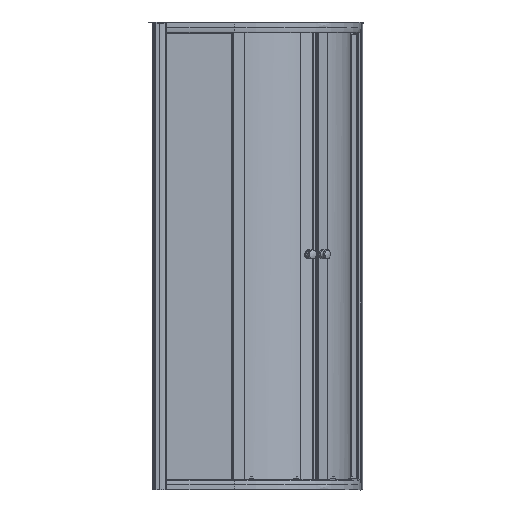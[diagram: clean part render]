
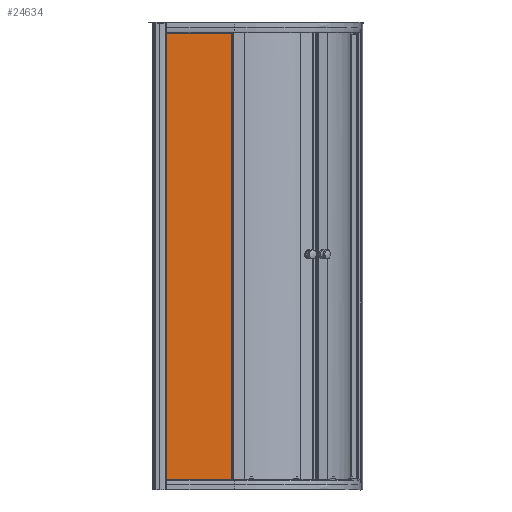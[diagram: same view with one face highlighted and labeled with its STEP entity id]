
A CAD part, front view. The second image highlights one B-rep face of the part: STEP entity #24634.
In plain terms, the highlighted planar face has unit normal (0, -1, 0).
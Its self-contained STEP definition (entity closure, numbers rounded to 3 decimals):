
#150=(
BOUNDED_CURVE()
B_SPLINE_CURVE(2,(#42019,#42020,#42021),.UNSPECIFIED.,.F.,.F.)
B_SPLINE_CURVE_WITH_KNOTS((3,3),(95.,190.),
 .UNSPECIFIED.)
CURVE()
GEOMETRIC_REPRESENTATION_ITEM()
RATIONAL_B_SPLINE_CURVE((1.,1.,1.))
REPRESENTATION_ITEM($)
);
#1147=LINE($,#41335,#2920);
#1368=LINE($,#41995,#3141);
#1369=LINE($,#41997,#3142);
#1370=LINE($,#41999,#3143);
#1371=LINE($,#42001,#3144);
#1372=LINE($,#42003,#3145);
#1373=LINE($,#42005,#3146);
#1374=LINE($,#42007,#3147);
#1375=LINE($,#42009,#3148);
#1376=LINE($,#42011,#3149);
#1377=LINE($,#42013,#3150);
#1378=LINE($,#42015,#3151);
#1379=LINE($,#42017,#3152);
#1380=LINE($,#42023,#3153);
#1381=LINE($,#42025,#3154);
#1382=LINE($,#42027,#3155);
#1383=LINE($,#42029,#3156);
#1384=LINE($,#42031,#3157);
#1385=LINE($,#42032,#3158);
#1386=LINE($,#42035,#3159);
#1387=LINE($,#42037,#3160);
#1388=LINE($,#42039,#3161);
#1389=LINE($,#42040,#3162);
#2920=VECTOR($,#31073,283.9);
#3141=VECTOR($,#31694,7.4);
#3142=VECTOR($,#31695,2.11);
#3143=VECTOR($,#31696,1927.);
#3144=VECTOR($,#31697,2.11);
#3145=VECTOR($,#31698,7.6);
#3146=VECTOR($,#31699,283.9);
#3147=VECTOR($,#31700,1.327);
#3148=VECTOR($,#31701,283.9);
#3149=VECTOR($,#31702,0.446);
#3150=VECTOR($,#31703,283.9);
#3151=VECTOR($,#31704,4.271);
#3152=VECTOR($,#31705,950.);
#3153=VECTOR($,#31706,0.);
#3154=VECTOR($,#31707,4.182);
#3155=VECTOR($,#31708,283.9);
#3156=VECTOR($,#31709,0.449);
#3157=VECTOR($,#31710,283.9);
#3158=VECTOR($,#31711,1.325);
#3159=VECTOR($,#31712,1900.);
#3160=VECTOR($,#31713,2.486);
#3161=VECTOR($,#31714,1900.);
#3162=VECTOR($,#31715,2.628);
#4465=FACE_BOUND($,#7430,.T.);
#5790=FACE_OUTER_BOUND($,#7429,.T.);
#7429=EDGE_LOOP($,(#18364,#18365,#18366,#18367,#18368,#18369,#18370,#18371,
#18372,#18373,#18374,#18375,#18376,#18377,#18378,#18379,#18380,#18381,#18382,
#18383));
#7430=EDGE_LOOP($,(#18384,#18385,#18386,#18387));
#10462=VERTEX_POINT($,#41333);
#10463=VERTEX_POINT($,#41334);
#10667=VERTEX_POINT($,#41994);
#10668=VERTEX_POINT($,#41996);
#10669=VERTEX_POINT($,#41998);
#10670=VERTEX_POINT($,#42000);
#10671=VERTEX_POINT($,#42002);
#10672=VERTEX_POINT($,#42004);
#10673=VERTEX_POINT($,#42006);
#10674=VERTEX_POINT($,#42008);
#10675=VERTEX_POINT($,#42010);
#10676=VERTEX_POINT($,#42012);
#10677=VERTEX_POINT($,#42014);
#10678=VERTEX_POINT($,#42016);
#10679=VERTEX_POINT($,#42018);
#10680=VERTEX_POINT($,#42022);
#10681=VERTEX_POINT($,#42024);
#10682=VERTEX_POINT($,#42026);
#10683=VERTEX_POINT($,#42028);
#10684=VERTEX_POINT($,#42030);
#10685=VERTEX_POINT($,#42033);
#10686=VERTEX_POINT($,#42034);
#10687=VERTEX_POINT($,#42036);
#10688=VERTEX_POINT($,#42038);
#13090=EDGE_CURVE($,#10462,#10463,#1147,.T.);
#13411=EDGE_CURVE($,#10463,#10667,#1368,.T.);
#13412=EDGE_CURVE($,#10667,#10668,#1369,.T.);
#13413=EDGE_CURVE($,#10668,#10669,#1370,.T.);
#13414=EDGE_CURVE($,#10670,#10669,#1371,.T.);
#13415=EDGE_CURVE($,#10670,#10671,#1372,.T.);
#13416=EDGE_CURVE($,#10671,#10672,#1373,.T.);
#13417=EDGE_CURVE($,#10673,#10672,#1374,.T.);
#13418=EDGE_CURVE($,#10673,#10674,#1375,.T.);
#13419=EDGE_CURVE($,#10674,#10675,#1376,.T.);
#13420=EDGE_CURVE($,#10675,#10676,#1377,.T.);
#13421=EDGE_CURVE($,#10677,#10676,#1378,.T.);
#13422=EDGE_CURVE($,#10678,#10677,#1379,.T.);
#13423=EDGE_CURVE($,#10678,#10679,#150,.T.);
#13424=EDGE_CURVE($,#10679,#10680,#1380,.T.);
#13425=EDGE_CURVE($,#10681,#10680,#1381,.T.);
#13426=EDGE_CURVE($,#10681,#10682,#1382,.T.);
#13427=EDGE_CURVE($,#10682,#10683,#1383,.T.);
#13428=EDGE_CURVE($,#10683,#10684,#1384,.T.);
#13429=EDGE_CURVE($,#10462,#10684,#1385,.T.);
#13430=EDGE_CURVE($,#10685,#10686,#1386,.T.);
#13431=EDGE_CURVE($,#10686,#10687,#1387,.T.);
#13432=EDGE_CURVE($,#10687,#10688,#1388,.T.);
#13433=EDGE_CURVE($,#10688,#10685,#1389,.T.);
#18364=ORIENTED_EDGE($,*,*,#13090,.T.);
#18365=ORIENTED_EDGE($,*,*,#13411,.T.);
#18366=ORIENTED_EDGE($,*,*,#13412,.T.);
#18367=ORIENTED_EDGE($,*,*,#13413,.T.);
#18368=ORIENTED_EDGE($,*,*,#13414,.F.);
#18369=ORIENTED_EDGE($,*,*,#13415,.T.);
#18370=ORIENTED_EDGE($,*,*,#13416,.T.);
#18371=ORIENTED_EDGE($,*,*,#13417,.F.);
#18372=ORIENTED_EDGE($,*,*,#13418,.T.);
#18373=ORIENTED_EDGE($,*,*,#13419,.T.);
#18374=ORIENTED_EDGE($,*,*,#13420,.T.);
#18375=ORIENTED_EDGE($,*,*,#13421,.F.);
#18376=ORIENTED_EDGE($,*,*,#13422,.F.);
#18377=ORIENTED_EDGE($,*,*,#13423,.T.);
#18378=ORIENTED_EDGE($,*,*,#13424,.T.);
#18379=ORIENTED_EDGE($,*,*,#13425,.F.);
#18380=ORIENTED_EDGE($,*,*,#13426,.T.);
#18381=ORIENTED_EDGE($,*,*,#13427,.T.);
#18382=ORIENTED_EDGE($,*,*,#13428,.T.);
#18383=ORIENTED_EDGE($,*,*,#13429,.F.);
#18384=ORIENTED_EDGE($,*,*,#13430,.T.);
#18385=ORIENTED_EDGE($,*,*,#13431,.T.);
#18386=ORIENTED_EDGE($,*,*,#13432,.T.);
#18387=ORIENTED_EDGE($,*,*,#13433,.T.);
#22078=PLANE($,#26779);
#24634=ADVANCED_FACE($,(#5790,#4465),#22078,.T.);
#26779=AXIS2_PLACEMENT_3D($,#41993,#31692,#31693);
#31073=DIRECTION($,(-1.,0.,0.));
#31692=DIRECTION('center_axis',(0.,-1.,
0.));
#31693=DIRECTION('ref_axis',(-1.,0.,0.));
#31694=DIRECTION($,(0.,0.,1.));
#31695=DIRECTION($,(-1.,0.,0.));
#31696=DIRECTION($,(0.,0.,-1.));
#31697=DIRECTION($,(-1.,0.,0.));
#31698=DIRECTION($,(0.,0.,1.));
#31699=DIRECTION($,(1.,0.,0.));
#31700=DIRECTION($,(0.,0.,-1.));
#31701=DIRECTION($,(-1.,0.,0.));
#31702=DIRECTION($,(0.,0.,1.));
#31703=DIRECTION($,(1.,0.,0.));
#31704=DIRECTION($,(0.,0.,-1.));
#31705=DIRECTION($,(0.,0.,-1.));
#31706=DIRECTION($,(1.,0.,0.));
#31707=DIRECTION($,(0.,0.,-1.));
#31708=DIRECTION($,(-1.,0.,0.));
#31709=DIRECTION($,(0.,0.,1.));
#31710=DIRECTION($,(1.,0.,0.));
#31711=DIRECTION($,(0.,0.,-1.));
#31712=DIRECTION($,(0.,0.,-1.));
#31713=DIRECTION($,(-1.,0.,0.));
#31714=DIRECTION($,(0.,0.,1.));
#31715=DIRECTION($,(1.,0.,0.));
#41333=CARTESIAN_POINT('',(229.314,-172.061,1966.));
#41334=CARTESIAN_POINT('',(-54.586,-172.061,1966.));
#41335=CARTESIAN_POINT($,(87.364,-172.061,1966.));
#41993=CARTESIAN_POINT('Origin',(229.314,-172.061,1973.4));
#41994=CARTESIAN_POINT('',(-54.586,-172.061,1973.4));
#41995=CARTESIAN_POINT($,(-54.586,-172.061,1980.94));
#41996=CARTESIAN_POINT('',(-56.696,-172.061,1973.4));
#41997=CARTESIAN_POINT($,(229.314,-172.061,1973.4));
#41998=CARTESIAN_POINT('',(-56.696,-172.059,46.4));
#41999=CARTESIAN_POINT($,(-56.696,-172.06,991.7));
#42000=CARTESIAN_POINT('',(-54.586,-172.059,46.4));
#42001=CARTESIAN_POINT($,(229.314,-172.059,46.4));
#42002=CARTESIAN_POINT('',(-54.586,-172.059,54.));
#42003=CARTESIAN_POINT($,(-54.586,-172.06,1012.975));
#42004=CARTESIAN_POINT('',(229.314,-172.059,54.));
#42005=CARTESIAN_POINT($,(497.154,-172.059,54.));
#42006=CARTESIAN_POINT('',(229.314,-172.059,55.327));
#42007=CARTESIAN_POINT($,(229.314,-172.061,1973.4));
#42008=CARTESIAN_POINT('',(-54.586,-172.059,55.327));
#42009=CARTESIAN_POINT($,(-54.586,-172.059,55.327));
#42010=CARTESIAN_POINT('',(-54.586,-172.059,55.773));
#42011=CARTESIAN_POINT($,(-54.586,-172.06,1014.475));
#42012=CARTESIAN_POINT('',(229.314,-172.059,55.773));
#42013=CARTESIAN_POINT($,(-54.586,-172.059,55.773));
#42014=CARTESIAN_POINT('',(229.314,-172.059,60.044));
#42015=CARTESIAN_POINT($,(229.314,-172.061,1973.4));
#42016=CARTESIAN_POINT('',(229.314,-172.06,1010.044));
#42017=CARTESIAN_POINT($,(229.314,-172.061,1973.4));
#42018=CARTESIAN_POINT('',(229.314,-172.061,1960.044));
#42019=CARTESIAN_POINT('Ctrl Pts',(229.314,-172.06,1010.044));
#42020=CARTESIAN_POINT('Ctrl Pts',(229.314,-172.061,1485.176));
#42021=CARTESIAN_POINT('Ctrl Pts',(229.314,-172.061,1960.044));
#42022=CARTESIAN_POINT('',(229.314,-172.061,1960.044));
#42023=CARTESIAN_POINT($,(229.714,-172.061,1960.044));
#42024=CARTESIAN_POINT('',(229.314,-172.061,1964.226));
#42025=CARTESIAN_POINT($,(229.314,-172.061,1973.4));
#42026=CARTESIAN_POINT('',(-54.586,-172.061,1964.226));
#42027=CARTESIAN_POINT($,(230.414,-172.061,1964.226));
#42028=CARTESIAN_POINT('',(-54.586,-172.061,1964.674));
#42029=CARTESIAN_POINT($,(-54.586,-172.061,1969.675));
#42030=CARTESIAN_POINT('',(229.314,-172.061,1964.674));
#42031=CARTESIAN_POINT($,(230.414,-172.061,1964.674));
#42032=CARTESIAN_POINT($,(229.314,-172.061,1973.4));
#42033=CARTESIAN_POINT('',(226.942,-172.061,1960.044));
#42034=CARTESIAN_POINT('',(226.8,-172.059,60.044));
#42035=CARTESIAN_POINT($,(226.943,-172.061,1966.722));
#42036=CARTESIAN_POINT('',(224.314,-172.059,60.044));
#42037=CARTESIAN_POINT($,(229.714,-172.059,60.044));
#42038=CARTESIAN_POINT('',(224.314,-172.061,1960.044));
#42039=CARTESIAN_POINT($,(224.314,-172.061,1966.722));
#42040=CARTESIAN_POINT($,(229.714,-172.061,1960.044));
